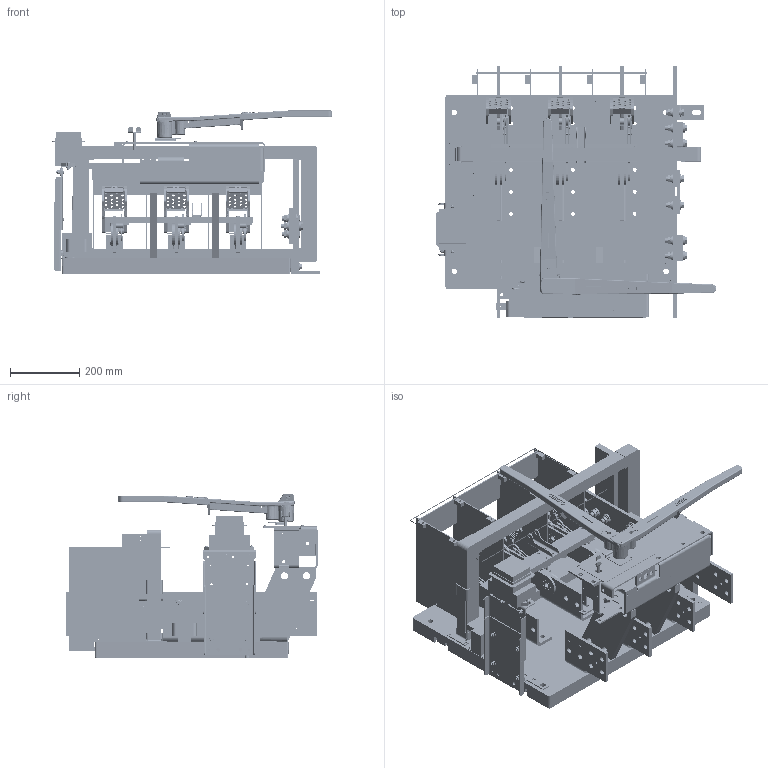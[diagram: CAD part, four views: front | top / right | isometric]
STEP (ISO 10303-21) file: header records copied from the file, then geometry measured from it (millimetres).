
FILE_DESCRIPTION(/* description */ (''),/* implementation_level */ '2;1');
FILE_NAME(/* name */ 'H:\switches\3d-templates\catalog-switches-iges-files\CATALOG-VL369G6.stp',/* time_stamp */ '2022-03-23T14:11:02-05:00',/* author */ ('MKingston'),/* organization */ (''),/* preprocessor_version */ 'ST-DEVELOPER v18.1',/* originating_system */ 'Autodesk Inventor 2022',/* authorisation */ '');
FILE_SCHEMA (('AUTOMOTIVE_DESIGN { 1 0 10303 214 3 1 1 }'));
Products named in the file (79): vl369; 277; 668-D; 668-C; 668-E; catalog-56-qj-arcchute-assy; 363-da; 363-da_MIR; 50-QLX; 50-QRX; 56-QJS; 57-QJSB; 57-QJST; catalog-vl369-blade-assy; 67-AL; 67-AR; 67-fc3; 67-gc3; 67-M; 67-j; ANSI/ASME B18.7 - T 0.252 x 17/32; ANSI/ASME B18.7 - T 0.188 x 17/32; 235-b; 230-a; 246-a; 255-z; 67-ZBA; 255-bha; 255-c; 178-c; gfi-ring-assembly; GFS10X24; 277-ma; gfr-1-mounting-assembly; 277-L1T; 277-l2; 277-l3; 277-l4; gfr-1; Bolted Connection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
Assembly tree (193 placements, depth 4):
  vl369
    277
    668-D  x3
    668-C  x3
    668-E  x3
    catalog-56-qj-arcchute-assy  x3
      363-da
      363-da_MIR
      50-QLX
      50-QRX
      56-QJS
      57-QJSB
      57-QJST
    catalog-vl369-blade-assy  x3
      67-AL
      67-AR
      67-fc3
      67-gc3
      67-j
      67-M
      ANSI/ASME B18.7 - T 0.252 x 17/32
      ANSI/ASME B18.7 - T 0.188 x 17/32
    235-b
    230-a
    255-bha  x4
    246-a  x2
    255-z
    67-ZBA  x3
    255-c
    178-c  x8
    gfi-ring-assembly
      GFS10X24
      277-ma
    gfr-1-mounting-assembly
      277-L1T
      277-l2
      277-l3
      277-l4
      gfr-1
      Bolted Connection
        ANSI B18.22.1 - No. 10 - Type A  x4
        ASME B18.21.1 - No. 10. Carbon Steel, ETLWTB(1)  x4
        ANSI B18.6.3 - 10 - 32 x 7/8 SR HMS  x2
        ANSI B18.2.2 - 10 - 32, HMSNI  x2
      Bolted Connection_1
        ANSI B18.5 - 1/4-20 UNC - 0.75, RHBI  x6
        ASTM F436 - 1/4, CW  x6
        ASME B18.21.1 - 1/4. Carbon Steel, HITLWTB(1)  x6
        ANSI B18.2.2 - 1/4 - 20, HNI  x6
    transformer
    800-bck2
    800-fck-1
    221-kpa
    452
    481-a
    1600-VL-NEUTRAL
      675-a
      675-ba
      675-df  x2
      676-l  x2
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Bounding box: 807.14 x 725.27 x 469.37 mm (x, y, z)
Volume: 21110699.2 mm3; surface area: 4775111.2 mm2
Topology: 227 solids, 228 shells, 6816 faces, 17182 edges, 11163 vertices
Faces by surface type: plane 3448, cylinder 1976, cone 806, bspline 453, torus 113, sphere 20
Full cylindrical faces by diameter (mm): 1.702 x8, 3.175 x4, 3.302 x2, 3.581 x2, 3.683 x8, 3.759 x12, 3.962 x11, 4.089 x4, 4.305 x42, 4.366 x2, 4.496 x24, 4.653 x4, 4.762 x4, 4.775 x11, 4.801 x8, 4.826 x2, 4.902 x14, 4.915 x24, 4.953 x4, 4.978 x9, 5.462 x4, 5.537 x3, 5.556 x5, 5.563 x4, 5.791 x6, 6.35 x50, 6.401 x9, 6.528 x73, 7.137 x8, 7.144 x14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
Entity records: 122783 total; most frequent: CARTESIAN_POINT 30939, DIRECTION 18293, ORIENTED_EDGE 18244, EDGE_CURVE 9130, AXIS2_PLACEMENT_3D 6364, VERTEX_POINT 5928, LINE 5565, VECTOR 5565
